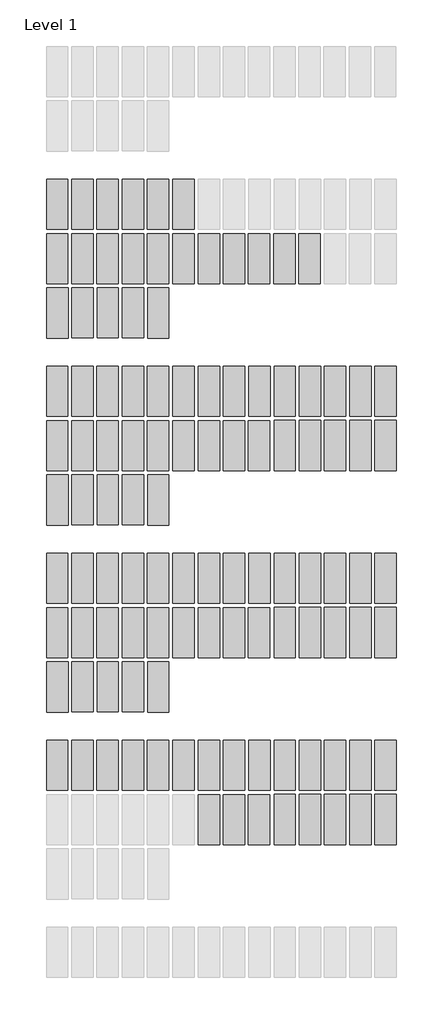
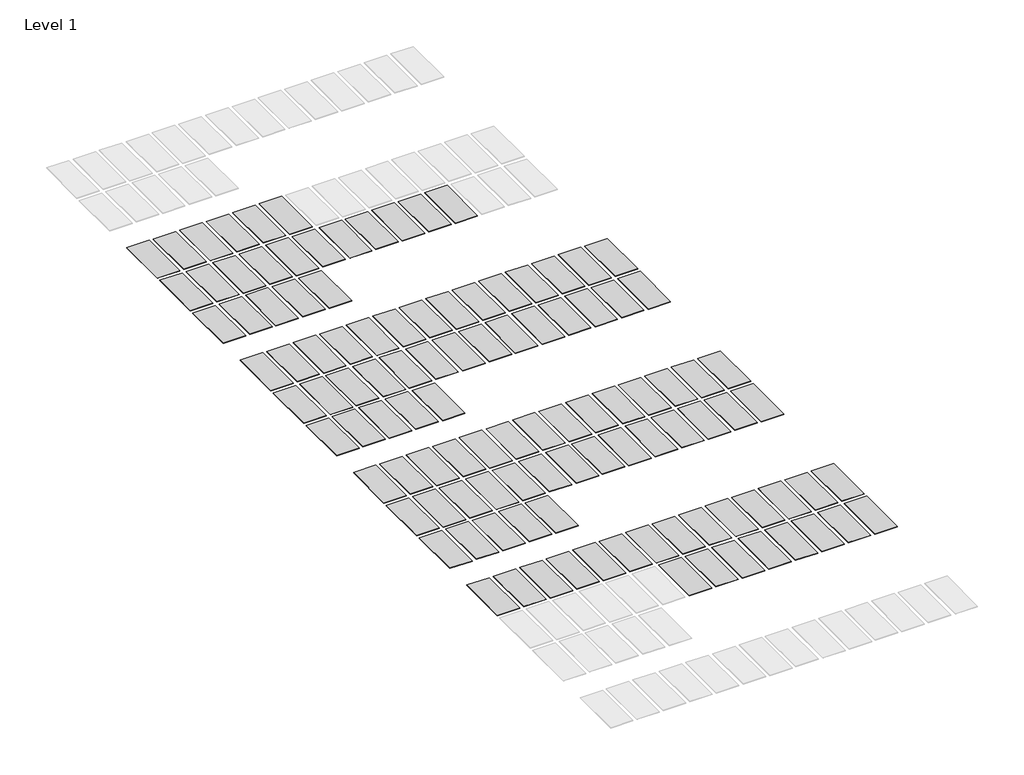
# One storey, part 2 of 3: 110 proxies.
"""IFC4 building model written with IfcOpenShell, lengths in millimetres."""

import ifcopenshell
import ifcopenshell.guid

model = None  # the IFC model being written
_history = None  # IfcOwnerHistory: only IFC2X3 demands one
_inside = {}  # id of a spatial element -> (the spatial element, [elements in it])
_under = {}  # id of a project, library or spatial element -> (it, [spatial elements below it])
_declared = {}  # id of a project -> (the project, [libraries it declares])
_typed = {}  # id of a type object -> (the type object, [elements of that type])
_made_of = {}  # id of a material, layer set ... -> (it, [elements and type objects made of it])


def new_model(schema):
    """Start an empty IFC model of exactly this schema.

    Asked for "IFC4X3", IfcOpenShell would pick the latest addendum, in which some entities
    have other attributes; the version numbers below select the first issue.
    IFC2X3 requires an IfcOwnerHistory on every rooted entity: one is made here for all.
    """
    global model, _history
    if schema == "IFC4X3":
        model = ifcopenshell.file(schema_version=(4, 3, 0, 0))
    else:
        model = ifcopenshell.file(schema=schema)
    _inside.clear()
    _under.clear()
    _declared.clear()
    _typed.clear()
    _made_of.clear()
    _history = None
    if model.schema == "IFC2X3":
        org = make("IfcOrganization", Name="unknown")
        user = make(
            "IfcPersonAndOrganization",
            ThePerson=make("IfcPerson", FamilyName="unknown"),
            TheOrganization=org,
        )
        app = make(
            "IfcApplication",
            ApplicationDeveloper=org,
            Version="unknown",
            ApplicationFullName="unknown",
            ApplicationIdentifier="unknown",
        )
        _history = make(
            "IfcOwnerHistory",
            OwningUser=user,
            OwningApplication=app,
            ChangeAction="ADDED",
            CreationDate=0,
        )
    return model


def make(cls, **values):
    """One entity of the class cls with the attributes given. An attribute that is None is left unset."""
    return model.create_entity(
        cls, **{name: value for name, value in values.items() if value is not None}
    )


def rooted(cls, **values):
    """An entity with a GlobalId (a new one), such as an element, a storey or a relation."""
    return make(cls, GlobalId=ifcopenshell.guid.new(), OwnerHistory=_history, **values)


def si_unit(unit_type, name, prefix=None):
    """IfcSIUnit, for example si_unit("LENGTHUNIT", "METRE", prefix="MILLI")."""
    return make("IfcSIUnit", UnitType=unit_type, Prefix=prefix, Name=name)


def assignment(units):
    """IfcUnitAssignment: the units of a project."""
    return None if units is None else make("IfcUnitAssignment", Units=units)


def point(xyz):
    """IfcCartesianPoint."""
    return None if xyz is None else make("IfcCartesianPoint", Coordinates=xyz)


def direction(xyz):
    """IfcDirection."""
    return None if xyz is None else make("IfcDirection", DirectionRatios=xyz)


def frame(location, z_axis=None, x_axis=None):
    """IfcAxis2Placement3D, a coordinate frame: its origin and axes. An axis left out is left unset."""
    return make(
        "IfcAxis2Placement3D",
        Location=point(location),
        Axis=direction(z_axis),
        RefDirection=direction(x_axis),
    )


def origin():
    """The frame at (0, 0, 0) with its axes left unset."""
    return frame((0.0, 0.0, 0.0))


def origin_with_axes():
    """The frame at (0, 0, 0) with the z axis (0, 0, 1) and the x axis (1, 0, 0) written out."""
    return frame((0.0, 0.0, 0.0), z_axis=(0.0, 0.0, 1.0), x_axis=(1.0, 0.0, 0.0))


def place(relative_to, where):
    """IfcLocalPlacement: puts the frame where relative to a parent placement (None: the world)."""
    return make(
        "IfcLocalPlacement", PlacementRelTo=relative_to, RelativePlacement=where
    )


def context(
    kind, dimensions, precision=None, world=None, true_north=None, identifier=None
):
    """IfcGeometricRepresentationContext, for example the 3D "Model" context."""
    return make(
        "IfcGeometricRepresentationContext",
        ContextIdentifier=identifier,
        ContextType=kind,
        CoordinateSpaceDimension=dimensions,
        Precision=precision,
        WorldCoordinateSystem=world,
        TrueNorth=true_north,
    )


def project(units=None, contexts=None):
    """IfcProject with its units and contexts."""
    return rooted(
        "IfcProject",
        Name="project",
        RepresentationContexts=contexts,
        UnitsInContext=assignment(units),
    )


def spatial(cls, under=None, at=None, **own):
    """A site, building, storey or space (cls), placed at a placement, below another one or the project."""
    s = rooted(cls, ObjectPlacement=at, **own)
    if under is not None:
        _under.setdefault(under.id(), (under, []))[1].append(s)
    return s


def polyline(points):
    """IfcPolyline through the points."""
    return make("IfcPolyline", Points=[point(p) for p in points])


def outline(outer, holes=None, kind="AREA"):
    """IfcArbitraryClosedProfileDef: a profile drawn as a closed curve; with holes, ...WithVoids."""
    if holes is None:
        return make("IfcArbitraryClosedProfileDef", ProfileType=kind, OuterCurve=outer)
    return make(
        "IfcArbitraryProfileDefWithVoids",
        ProfileType=kind,
        OuterCurve=outer,
        InnerCurves=holes,
    )


def extrude(swept, where, along, depth):
    """IfcExtrudedAreaSolid: the profile swept, set in the frame where, extruded along a direction by depth."""
    return make(
        "IfcExtrudedAreaSolid",
        SweptArea=swept,
        Position=where,
        ExtrudedDirection=direction(along),
        Depth=depth,
    )


def shape(context_of_items, identifier, shape_type, items):
    """IfcShapeRepresentation: the items that make up one representation, for example the "Body"."""
    return make(
        "IfcShapeRepresentation",
        ContextOfItems=context_of_items,
        RepresentationIdentifier=identifier,
        RepresentationType=shape_type,
        Items=items,
    )


def source(mapping_origin, context_of_items, identifier, shape_type, items):
    """IfcRepresentationMap: a shape defined once, which mapped items show again and again."""
    return make(
        "IfcRepresentationMap",
        MappingOrigin=mapping_origin,
        MappedRepresentation=shape(context_of_items, identifier, shape_type, items),
    )


def transform(
    local_origin,
    x_axis=None,
    y_axis=None,
    z_axis=None,
    scale=None,
    scale2=None,
    scale3=None,
    uniform=True,
):
    """IfcCartesianTransformationOperator3D, or its non-uniform kind. x_axis, y_axis, z_axis: its Axis1, 2, 3."""
    if uniform:
        return make(
            "IfcCartesianTransformationOperator3D",
            Axis1=direction(x_axis),
            Axis2=direction(y_axis),
            LocalOrigin=point(local_origin),
            Scale=scale,
            Axis3=direction(z_axis),
        )
    return make(
        "IfcCartesianTransformationOperator3DnonUniform",
        Axis1=direction(x_axis),
        Axis2=direction(y_axis),
        LocalOrigin=point(local_origin),
        Scale=scale,
        Axis3=direction(z_axis),
        Scale2=scale2,
        Scale3=scale3,
    )


def mapped(mapping_source, mapping_target):
    """IfcMappedItem: shows the shape of a source again, moved by a transform."""
    return make(
        "IfcMappedItem", MappingSource=mapping_source, MappingTarget=mapping_target
    )


def made_of(thing, what):
    """Note that an element or type object is made of a material, layer set ...; save() writes the relation."""
    if what is not None:
        _made_of.setdefault(what.id(), (what, []))[1].append(thing)
    return thing


def element(
    cls,
    number,
    at=None,
    inside=None,
    cuts=None,
    type_object=None,
    material=None,
    context=None,
    identifier="Body",
    shape_type=None,
    held_by="IfcProductDefinitionShape",
    body=None,
    shapes=None,
    **own,
):
    """One element of the class cls, such as IfcWall. Its Tag is "e" and its number.

    at: its placement. inside: the storey or other place that contains it. cuts: it is an
    opening in that element (IfcRelVoidsElement). A single representation is given by context,
    identifier, shape_type and body (its items); several are given by shapes. held_by: the class
    of the entity that holds the representations. save() writes the other relations.
    """
    e = rooted(cls, Tag="e%d" % number, ObjectPlacement=at, **own)
    if body is not None:
        shapes = [shape(context, identifier, shape_type, body)]
    if shapes is not None:
        e.Representation = make(held_by, Representations=shapes)
    if inside is not None:
        _inside.setdefault(inside.id(), (inside, []))[1].append(e)
    if cuts is not None:
        rooted(
            "IfcRelVoidsElement", RelatingBuildingElement=cuts, RelatedOpeningElement=e
        )
    if type_object is not None:
        _typed.setdefault(type_object.id(), (type_object, []))[1].append(e)
    return made_of(e, material)


def aggregate(whole, parts):
    """IfcRelAggregates: a whole, such as a stair, and the parts it consists of."""
    return rooted("IfcRelAggregates", RelatingObject=whole, RelatedObjects=parts)


def save(model, path):
    """Write the relations noted so far, then the file.

    IfcRelAggregates (storeys below a building ...), IfcRelContainedInSpatialStructure (elements
    in a storey), IfcRelDefinesByType, IfcRelAssociatesMaterial and IfcRelDeclares: one each for
    every whole, place, type object, material and project.
    """
    for whole, parts in _under.values():
        aggregate(whole, parts)
    for where, things in _inside.values():
        rooted(
            "IfcRelContainedInSpatialStructure",
            RelatedElements=things,
            RelatingStructure=where,
        )
    for kind, things in _typed.values():
        rooted("IfcRelDefinesByType", RelatedObjects=things, RelatingType=kind)
    for what, things in _made_of.values():
        rooted("IfcRelAssociatesMaterial", RelatedObjects=things, RelatingMaterial=what)
    for by, libraries in _declared.values():
        rooted("IfcRelDeclares", RelatingContext=by, RelatedDefinitions=libraries)
    model.write(path)


def materialsample_type_1_ed131d8e(model_context):
    return source(origin(), model_context, "Body", "SweptSolid", [
        extrude(outline(polyline([(1176.0974335, 20.0569203), (7.6974335, 20.0569203), (7.6974335, 2763.2569203), (1176.0974335, 2763.2569203), (1176.0974335, 20.0569203)])), origin_with_axes(), (0.0, 0.0, 1.0), 25.4),
    ])


model = new_model("IFC4")

# Units and contexts
model_context = context("Model", 3, world=origin())
ifc_project = project(units=[si_unit("LENGTHUNIT", "METRE", prefix="MILLI")], contexts=[model_context])

# Site, building, storey
site = spatial("IfcSite", under=ifc_project)
building = spatial("IfcBuilding", under=site)
storey = spatial("IfcBuildingStorey", under=building, Name="Level 1", Elevation=0.0)

# Proxies
placement = place(None, origin())
materialsample_type_1_shape = materialsample_type_1_ed131d8e(model_context)
element("IfcBuildingElementProxy", 1, Name="MaterialSample : Type 1", ObjectType="MaterialSample : Type 1", at=placement, inside=storey, context=model_context, shape_type="MappedRepresentation", body=[
    mapped(materialsample_type_1_shape, transform((0.0, -42976.8, 0.0), x_axis=(1.0, 0.0, 0.0), y_axis=(0.0, 1.0, 0.0), z_axis=(0.0, 0.0, 1.0))),
])
element("IfcBuildingElementProxy", 2, Name="MaterialSample : Type 1", ObjectType="MaterialSample : Type 1", at=placement, inside=storey, context=model_context, shape_type="MappedRepresentation", body=[
    mapped(materialsample_type_1_shape, transform((1371.6, -42976.8, 0.0), x_axis=(1.0, 0.0, 0.0), y_axis=(0.0, 1.0, 0.0), z_axis=(0.0, 0.0, 1.0))),
])
element("IfcBuildingElementProxy", 3, Name="MaterialSample : Type 1", ObjectType="MaterialSample : Type 1", at=placement, inside=storey, context=model_context, shape_type="MappedRepresentation", body=[
    mapped(materialsample_type_1_shape, transform((2750.8974335, -42976.8, 0.0), x_axis=(1.0, 0.0, 0.0), y_axis=(0.0, 1.0, 0.0), z_axis=(0.0, 0.0, 1.0))),
])
element("IfcBuildingElementProxy", 4, Name="MaterialSample : Type 1", ObjectType="MaterialSample : Type 1", at=placement, inside=storey, context=model_context, shape_type="MappedRepresentation", body=[
    mapped(materialsample_type_1_shape, transform((4130.1948669, -42976.8, 0.0), x_axis=(1.0, 0.0, 0.0), y_axis=(0.0, 1.0, 0.0), z_axis=(0.0, 0.0, 1.0))),
])
element("IfcBuildingElementProxy", 5, Name="MaterialSample : Type 1", ObjectType="MaterialSample : Type 1", at=placement, inside=storey, context=model_context, shape_type="MappedRepresentation", body=[
    mapped(materialsample_type_1_shape, transform((5509.4923004, -42976.8, 0.0), x_axis=(1.0, 0.0, 0.0), y_axis=(0.0, 1.0, 0.0), z_axis=(0.0, 0.0, 1.0))),
])
element("IfcBuildingElementProxy", 6, Name="MaterialSample : Type 1", ObjectType="MaterialSample : Type 1", at=placement, inside=storey, context=model_context, shape_type="MappedRepresentation", body=[
    mapped(materialsample_type_1_shape, transform((6896.4871673, -42976.8, 0.0), x_axis=(1.0, 0.0, 0.0), y_axis=(0.0, 1.0, 0.0), z_axis=(0.0, 0.0, 1.0))),
])
element("IfcBuildingElementProxy", 7, Name="MaterialSample : Type 1", ObjectType="MaterialSample : Type 1", at=placement, inside=storey, context=model_context, shape_type="MappedRepresentation", body=[
    mapped(materialsample_type_1_shape, transform((0.0, -45943.2569203, 0.0), x_axis=(1.0, 0.0, 0.0), y_axis=(0.0, 1.0, 0.0), z_axis=(0.0, 0.0, 1.0))),
])
element("IfcBuildingElementProxy", 8, Name="MaterialSample : Type 1", ObjectType="MaterialSample : Type 1", at=placement, inside=storey, context=model_context, shape_type="MappedRepresentation", body=[
    mapped(materialsample_type_1_shape, transform((1379.2974335, -45943.2569203, 0.0), x_axis=(1.0, 0.0, 0.0), y_axis=(0.0, 1.0, 0.0), z_axis=(0.0, 0.0, 1.0))),
])
element("IfcBuildingElementProxy", 9, Name="MaterialSample : Type 1", ObjectType="MaterialSample : Type 1", at=placement, inside=storey, context=model_context, shape_type="MappedRepresentation", body=[
    mapped(materialsample_type_1_shape, transform((2750.8974335, -45943.2569203, 0.0), x_axis=(1.0, 0.0, 0.0), y_axis=(0.0, 1.0, 0.0), z_axis=(0.0, 0.0, 1.0))),
])
element("IfcBuildingElementProxy", 10, Name="MaterialSample : Type 1", ObjectType="MaterialSample : Type 1", at=placement, inside=storey, context=model_context, shape_type="MappedRepresentation", body=[
    mapped(materialsample_type_1_shape, transform((4137.8923004, -45943.2569203, 0.0), x_axis=(1.0, 0.0, 0.0), y_axis=(0.0, 1.0, 0.0), z_axis=(0.0, 0.0, 1.0))),
])
element("IfcBuildingElementProxy", 11, Name="MaterialSample : Type 1", ObjectType="MaterialSample : Type 1", at=placement, inside=storey, context=model_context, shape_type="MappedRepresentation", body=[
    mapped(materialsample_type_1_shape, transform((5509.4923004, -45943.2569203, 0.0), x_axis=(1.0, 0.0, 0.0), y_axis=(0.0, 1.0, 0.0), z_axis=(0.0, 0.0, 1.0))),
])
element("IfcBuildingElementProxy", 12, Name="MaterialSample : Type 1", ObjectType="MaterialSample : Type 1", at=placement, inside=storey, context=model_context, shape_type="MappedRepresentation", body=[
    mapped(materialsample_type_1_shape, transform((6888.7897338, -45943.2569203, 0.0), x_axis=(1.0, 0.0, 0.0), y_axis=(0.0, 1.0, 0.0), z_axis=(0.0, 0.0, 1.0))),
])
element("IfcBuildingElementProxy", 13, Name="MaterialSample : Type 1", ObjectType="MaterialSample : Type 1", at=placement, inside=storey, context=model_context, shape_type="MappedRepresentation", body=[
    mapped(materialsample_type_1_shape, transform((8285.7897338, -45943.2569203, 0.0), x_axis=(1.0, 0.0, 0.0), y_axis=(0.0, 1.0, 0.0), z_axis=(0.0, 0.0, 1.0))),
])
element("IfcBuildingElementProxy", 14, Name="MaterialSample : Type 1", ObjectType="MaterialSample : Type 1", at=placement, inside=storey, context=model_context, shape_type="MappedRepresentation", body=[
    mapped(materialsample_type_1_shape, transform((9655.0820342, -45943.2569203, 0.0), x_axis=(1.0, 0.0, 0.0), y_axis=(0.0, 1.0, 0.0), z_axis=(0.0, 0.0, 1.0))),
])
element("IfcBuildingElementProxy", 15, Name="MaterialSample : Type 1", ObjectType="MaterialSample : Type 1", at=placement, inside=storey, context=model_context, shape_type="MappedRepresentation", body=[
    mapped(materialsample_type_1_shape, transform((11026.6820342, -45943.2569203, 0.0), x_axis=(1.0, 0.0, 0.0), y_axis=(0.0, 1.0, 0.0), z_axis=(0.0, 0.0, 1.0))),
])
element("IfcBuildingElementProxy", 16, Name="MaterialSample : Type 1", ObjectType="MaterialSample : Type 1", at=placement, inside=storey, context=model_context, shape_type="MappedRepresentation", body=[
    mapped(materialsample_type_1_shape, transform((5517.1897338, -48909.7138407, 0.0), x_axis=(1.0, 0.0, 0.0), y_axis=(0.0, 1.0, 0.0), z_axis=(0.0, 0.0, 1.0))),
])
element("IfcBuildingElementProxy", 17, Name="MaterialSample : Type 1", ObjectType="MaterialSample : Type 1", at=placement, inside=storey, context=model_context, shape_type="MappedRepresentation", body=[
    mapped(materialsample_type_1_shape, transform((4145.5897338, -48889.6569203, 0.0), x_axis=(1.0, 0.0, 0.0), y_axis=(0.0, 1.0, 0.0), z_axis=(0.0, 0.0, 1.0))),
])
element("IfcBuildingElementProxy", 18, Name="MaterialSample : Type 1", ObjectType="MaterialSample : Type 1", at=placement, inside=storey, context=model_context, shape_type="MappedRepresentation", body=[
    mapped(materialsample_type_1_shape, transform((2758.5948669, -48889.6569203, 0.0), x_axis=(1.0, 0.0, 0.0), y_axis=(0.0, 1.0, 0.0), z_axis=(0.0, 0.0, 1.0))),
])
element("IfcBuildingElementProxy", 19, Name="MaterialSample : Type 1", ObjectType="MaterialSample : Type 1", at=placement, inside=storey, context=model_context, shape_type="MappedRepresentation", body=[
    mapped(materialsample_type_1_shape, transform((1386.9948669, -48889.6569203, 0.0), x_axis=(1.0, 0.0, 0.0), y_axis=(0.0, 1.0, 0.0), z_axis=(0.0, 0.0, 1.0))),
])
element("IfcBuildingElementProxy", 20, Name="MaterialSample : Type 1", ObjectType="MaterialSample : Type 1", at=placement, inside=storey, context=model_context, shape_type="MappedRepresentation", body=[
    mapped(materialsample_type_1_shape, transform((7.6974335, -48909.7138407, 0.0), x_axis=(1.0, 0.0, 0.0), y_axis=(0.0, 1.0, 0.0), z_axis=(0.0, 0.0, 1.0))),
])
element("IfcBuildingElementProxy", 21, Name="MaterialSample : Type 1", ObjectType="MaterialSample : Type 1", at=placement, inside=storey, context=model_context, shape_type="MappedRepresentation", body=[
    mapped(materialsample_type_1_shape, transform((13777.5794677, -45943.2569203, 0.0), x_axis=(1.0, 0.0, 0.0), y_axis=(0.0, 1.0, 0.0), z_axis=(0.0, 0.0, 1.0))),
])
element("IfcBuildingElementProxy", 22, Name="MaterialSample : Type 1", ObjectType="MaterialSample : Type 1", at=placement, inside=storey, context=model_context, shape_type="MappedRepresentation", body=[
    mapped(materialsample_type_1_shape, transform((12405.9794677, -45943.2569203, 0.0), x_axis=(1.0, 0.0, 0.0), y_axis=(0.0, 1.0, 0.0), z_axis=(0.0, 0.0, 1.0))),
])
element("IfcBuildingElementProxy", 23, Name="MaterialSample : Type 1", ObjectType="MaterialSample : Type 1", at=placement, inside=storey, context=model_context, shape_type="MappedRepresentation", body=[
    mapped(materialsample_type_1_shape, transform((0.0, -53187.6, 0.0), x_axis=(1.0, 0.0, 0.0), y_axis=(0.0, 1.0, 0.0), z_axis=(0.0, 0.0, 1.0))),
])
element("IfcBuildingElementProxy", 24, Name="MaterialSample : Type 1", ObjectType="MaterialSample : Type 1", at=placement, inside=storey, context=model_context, shape_type="MappedRepresentation", body=[
    mapped(materialsample_type_1_shape, transform((1371.6, -53187.6, 0.0), x_axis=(1.0, 0.0, 0.0), y_axis=(0.0, 1.0, 0.0), z_axis=(0.0, 0.0, 1.0))),
])
element("IfcBuildingElementProxy", 25, Name="MaterialSample : Type 1", ObjectType="MaterialSample : Type 1", at=placement, inside=storey, context=model_context, shape_type="MappedRepresentation", body=[
    mapped(materialsample_type_1_shape, transform((2750.8974335, -53187.6, 0.0), x_axis=(1.0, 0.0, 0.0), y_axis=(0.0, 1.0, 0.0), z_axis=(0.0, 0.0, 1.0))),
])
element("IfcBuildingElementProxy", 26, Name="MaterialSample : Type 1", ObjectType="MaterialSample : Type 1", at=placement, inside=storey, context=model_context, shape_type="MappedRepresentation", body=[
    mapped(materialsample_type_1_shape, transform((4130.1948669, -53187.6, 0.0), x_axis=(1.0, 0.0, 0.0), y_axis=(0.0, 1.0, 0.0), z_axis=(0.0, 0.0, 1.0))),
])
element("IfcBuildingElementProxy", 27, Name="MaterialSample : Type 1", ObjectType="MaterialSample : Type 1", at=placement, inside=storey, context=model_context, shape_type="MappedRepresentation", body=[
    mapped(materialsample_type_1_shape, transform((5509.4923004, -53187.6, 0.0), x_axis=(1.0, 0.0, 0.0), y_axis=(0.0, 1.0, 0.0), z_axis=(0.0, 0.0, 1.0))),
])
element("IfcBuildingElementProxy", 28, Name="MaterialSample : Type 1", ObjectType="MaterialSample : Type 1", at=placement, inside=storey, context=model_context, shape_type="MappedRepresentation", body=[
    mapped(materialsample_type_1_shape, transform((6896.4871673, -53187.6, 0.0), x_axis=(1.0, 0.0, 0.0), y_axis=(0.0, 1.0, 0.0), z_axis=(0.0, 0.0, 1.0))),
])
element("IfcBuildingElementProxy", 29, Name="MaterialSample : Type 1", ObjectType="MaterialSample : Type 1", at=placement, inside=storey, context=model_context, shape_type="MappedRepresentation", body=[
    mapped(materialsample_type_1_shape, transform((8275.7846008, -53187.6, 0.0), x_axis=(1.0, 0.0, 0.0), y_axis=(0.0, 1.0, 0.0), z_axis=(0.0, 0.0, 1.0))),
])
element("IfcBuildingElementProxy", 30, Name="MaterialSample : Type 1", ObjectType="MaterialSample : Type 1", at=placement, inside=storey, context=model_context, shape_type="MappedRepresentation", body=[
    mapped(materialsample_type_1_shape, transform((9647.3846008, -53187.6, 0.0), x_axis=(1.0, 0.0, 0.0), y_axis=(0.0, 1.0, 0.0), z_axis=(0.0, 0.0, 1.0))),
])
element("IfcBuildingElementProxy", 31, Name="MaterialSample : Type 1", ObjectType="MaterialSample : Type 1", at=placement, inside=storey, context=model_context, shape_type="MappedRepresentation", body=[
    mapped(materialsample_type_1_shape, transform((11034.3794677, -53187.6, 0.0), x_axis=(1.0, 0.0, 0.0), y_axis=(0.0, 1.0, 0.0), z_axis=(0.0, 0.0, 1.0))),
])
element("IfcBuildingElementProxy", 32, Name="MaterialSample : Type 1", ObjectType="MaterialSample : Type 1", at=placement, inside=storey, context=model_context, shape_type="MappedRepresentation", body=[
    mapped(materialsample_type_1_shape, transform((12421.3743346, -53177.5715398, 0.0), x_axis=(1.0, 0.0, 0.0), y_axis=(0.0, 1.0, 0.0), z_axis=(0.0, 0.0, 1.0))),
])
element("IfcBuildingElementProxy", 33, Name="MaterialSample : Type 1", ObjectType="MaterialSample : Type 1", at=placement, inside=storey, context=model_context, shape_type="MappedRepresentation", body=[
    mapped(materialsample_type_1_shape, transform((13792.9743346, -53177.5715398, 0.0), x_axis=(1.0, 0.0, 0.0), y_axis=(0.0, 1.0, 0.0), z_axis=(0.0, 0.0, 1.0))),
])
element("IfcBuildingElementProxy", 34, Name="MaterialSample : Type 1", ObjectType="MaterialSample : Type 1", at=placement, inside=storey, context=model_context, shape_type="MappedRepresentation", body=[
    mapped(materialsample_type_1_shape, transform((15172.271768, -53177.5715398, 0.0), x_axis=(1.0, 0.0, 0.0), y_axis=(0.0, 1.0, 0.0), z_axis=(0.0, 0.0, 1.0))),
])
element("IfcBuildingElementProxy", 35, Name="MaterialSample : Type 1", ObjectType="MaterialSample : Type 1", at=placement, inside=storey, context=model_context, shape_type="MappedRepresentation", body=[
    mapped(materialsample_type_1_shape, transform((16551.5692015, -53177.5715398, 0.0), x_axis=(1.0, 0.0, 0.0), y_axis=(0.0, 1.0, 0.0), z_axis=(0.0, 0.0, 1.0))),
])
element("IfcBuildingElementProxy", 36, Name="MaterialSample : Type 1", ObjectType="MaterialSample : Type 1", at=placement, inside=storey, context=model_context, shape_type="MappedRepresentation", body=[
    mapped(materialsample_type_1_shape, transform((17930.866635, -53177.5715398, 0.0), x_axis=(1.0, 0.0, 0.0), y_axis=(0.0, 1.0, 0.0), z_axis=(0.0, 0.0, 1.0))),
])
element("IfcBuildingElementProxy", 37, Name="MaterialSample : Type 1", ObjectType="MaterialSample : Type 1", at=placement, inside=storey, context=model_context, shape_type="MappedRepresentation", body=[
    mapped(materialsample_type_1_shape, transform((0.0, -56154.0569203, 0.0), x_axis=(1.0, 0.0, 0.0), y_axis=(0.0, 1.0, 0.0), z_axis=(0.0, 0.0, 1.0))),
])
element("IfcBuildingElementProxy", 38, Name="MaterialSample : Type 1", ObjectType="MaterialSample : Type 1", at=placement, inside=storey, context=model_context, shape_type="MappedRepresentation", body=[
    mapped(materialsample_type_1_shape, transform((1379.2974335, -56154.0569203, 0.0), x_axis=(1.0, 0.0, 0.0), y_axis=(0.0, 1.0, 0.0), z_axis=(0.0, 0.0, 1.0))),
])
element("IfcBuildingElementProxy", 39, Name="MaterialSample : Type 1", ObjectType="MaterialSample : Type 1", at=placement, inside=storey, context=model_context, shape_type="MappedRepresentation", body=[
    mapped(materialsample_type_1_shape, transform((2750.8974335, -56154.0569203, 0.0), x_axis=(1.0, 0.0, 0.0), y_axis=(0.0, 1.0, 0.0), z_axis=(0.0, 0.0, 1.0))),
])
element("IfcBuildingElementProxy", 40, Name="MaterialSample : Type 1", ObjectType="MaterialSample : Type 1", at=placement, inside=storey, context=model_context, shape_type="MappedRepresentation", body=[
    mapped(materialsample_type_1_shape, transform((4137.8923004, -56154.0569203, 0.0), x_axis=(1.0, 0.0, 0.0), y_axis=(0.0, 1.0, 0.0), z_axis=(0.0, 0.0, 1.0))),
])
element("IfcBuildingElementProxy", 41, Name="MaterialSample : Type 1", ObjectType="MaterialSample : Type 1", at=placement, inside=storey, context=model_context, shape_type="MappedRepresentation", body=[
    mapped(materialsample_type_1_shape, transform((5509.4923004, -56154.0569203, 0.0), x_axis=(1.0, 0.0, 0.0), y_axis=(0.0, 1.0, 0.0), z_axis=(0.0, 0.0, 1.0))),
])
element("IfcBuildingElementProxy", 42, Name="MaterialSample : Type 1", ObjectType="MaterialSample : Type 1", at=placement, inside=storey, context=model_context, shape_type="MappedRepresentation", body=[
    mapped(materialsample_type_1_shape, transform((6888.7897338, -56154.0569203, 0.0), x_axis=(1.0, 0.0, 0.0), y_axis=(0.0, 1.0, 0.0), z_axis=(0.0, 0.0, 1.0))),
])
element("IfcBuildingElementProxy", 43, Name="MaterialSample : Type 1", ObjectType="MaterialSample : Type 1", at=placement, inside=storey, context=model_context, shape_type="MappedRepresentation", body=[
    mapped(materialsample_type_1_shape, transform((8285.7897338, -56154.0569203, 0.0), x_axis=(1.0, 0.0, 0.0), y_axis=(0.0, 1.0, 0.0), z_axis=(0.0, 0.0, 1.0))),
])
element("IfcBuildingElementProxy", 44, Name="MaterialSample : Type 1", ObjectType="MaterialSample : Type 1", at=placement, inside=storey, context=model_context, shape_type="MappedRepresentation", body=[
    mapped(materialsample_type_1_shape, transform((9655.0820342, -56154.0569203, 0.0), x_axis=(1.0, 0.0, 0.0), y_axis=(0.0, 1.0, 0.0), z_axis=(0.0, 0.0, 1.0))),
])
element("IfcBuildingElementProxy", 45, Name="MaterialSample : Type 1", ObjectType="MaterialSample : Type 1", at=placement, inside=storey, context=model_context, shape_type="MappedRepresentation", body=[
    mapped(materialsample_type_1_shape, transform((11026.6820342, -56154.0569203, 0.0), x_axis=(1.0, 0.0, 0.0), y_axis=(0.0, 1.0, 0.0), z_axis=(0.0, 0.0, 1.0))),
])
element("IfcBuildingElementProxy", 46, Name="MaterialSample : Type 1", ObjectType="MaterialSample : Type 1", at=placement, inside=storey, context=model_context, shape_type="MappedRepresentation", body=[
    mapped(materialsample_type_1_shape, transform((5517.1897338, -59120.5138407, 0.0), x_axis=(1.0, 0.0, 0.0), y_axis=(0.0, 1.0, 0.0), z_axis=(0.0, 0.0, 1.0))),
])
element("IfcBuildingElementProxy", 47, Name="MaterialSample : Type 1", ObjectType="MaterialSample : Type 1", at=placement, inside=storey, context=model_context, shape_type="MappedRepresentation", body=[
    mapped(materialsample_type_1_shape, transform((4145.5897338, -59100.4569203, 0.0), x_axis=(1.0, 0.0, 0.0), y_axis=(0.0, 1.0, 0.0), z_axis=(0.0, 0.0, 1.0))),
])
element("IfcBuildingElementProxy", 48, Name="MaterialSample : Type 1", ObjectType="MaterialSample : Type 1", at=placement, inside=storey, context=model_context, shape_type="MappedRepresentation", body=[
    mapped(materialsample_type_1_shape, transform((2758.5948669, -59100.4569203, 0.0), x_axis=(1.0, 0.0, 0.0), y_axis=(0.0, 1.0, 0.0), z_axis=(0.0, 0.0, 1.0))),
])
element("IfcBuildingElementProxy", 49, Name="MaterialSample : Type 1", ObjectType="MaterialSample : Type 1", at=placement, inside=storey, context=model_context, shape_type="MappedRepresentation", body=[
    mapped(materialsample_type_1_shape, transform((1386.9948669, -59100.4569203, 0.0), x_axis=(1.0, 0.0, 0.0), y_axis=(0.0, 1.0, 0.0), z_axis=(0.0, 0.0, 1.0))),
])
element("IfcBuildingElementProxy", 50, Name="MaterialSample : Type 1", ObjectType="MaterialSample : Type 1", at=placement, inside=storey, context=model_context, shape_type="MappedRepresentation", body=[
    mapped(materialsample_type_1_shape, transform((7.6974335, -59120.5138407, 0.0), x_axis=(1.0, 0.0, 0.0), y_axis=(0.0, 1.0, 0.0), z_axis=(0.0, 0.0, 1.0))),
])
element("IfcBuildingElementProxy", 51, Name="MaterialSample : Type 1", ObjectType="MaterialSample : Type 1", at=placement, inside=storey, context=model_context, shape_type="MappedRepresentation", body=[
    mapped(materialsample_type_1_shape, transform((17930.866635, -56144.0284602, 0.0), x_axis=(1.0, 0.0, 0.0), y_axis=(0.0, 1.0, 0.0), z_axis=(0.0, 0.0, 1.0))),
])
element("IfcBuildingElementProxy", 52, Name="MaterialSample : Type 1", ObjectType="MaterialSample : Type 1", at=placement, inside=storey, context=model_context, shape_type="MappedRepresentation", body=[
    mapped(materialsample_type_1_shape, transform((16551.5692015, -56144.0284602, 0.0), x_axis=(1.0, 0.0, 0.0), y_axis=(0.0, 1.0, 0.0), z_axis=(0.0, 0.0, 1.0))),
])
element("IfcBuildingElementProxy", 53, Name="MaterialSample : Type 1", ObjectType="MaterialSample : Type 1", at=placement, inside=storey, context=model_context, shape_type="MappedRepresentation", body=[
    mapped(materialsample_type_1_shape, transform((15172.271768, -56144.0284602, 0.0), x_axis=(1.0, 0.0, 0.0), y_axis=(0.0, 1.0, 0.0), z_axis=(0.0, 0.0, 1.0))),
])
element("IfcBuildingElementProxy", 54, Name="MaterialSample : Type 1", ObjectType="MaterialSample : Type 1", at=placement, inside=storey, context=model_context, shape_type="MappedRepresentation", body=[
    mapped(materialsample_type_1_shape, transform((13792.9743346, -56144.0284602, 0.0), x_axis=(1.0, 0.0, 0.0), y_axis=(0.0, 1.0, 0.0), z_axis=(0.0, 0.0, 1.0))),
])
element("IfcBuildingElementProxy", 55, Name="MaterialSample : Type 1", ObjectType="MaterialSample : Type 1", at=placement, inside=storey, context=model_context, shape_type="MappedRepresentation", body=[
    mapped(materialsample_type_1_shape, transform((12421.3743346, -56144.0284602, 0.0), x_axis=(1.0, 0.0, 0.0), y_axis=(0.0, 1.0, 0.0), z_axis=(0.0, 0.0, 1.0))),
])
element("IfcBuildingElementProxy", 56, Name="MaterialSample : Type 1", ObjectType="MaterialSample : Type 1", at=placement, inside=storey, context=model_context, shape_type="MappedRepresentation", body=[
    mapped(materialsample_type_1_shape, transform((0.0, -63398.4, 0.0), x_axis=(1.0, 0.0, 0.0), y_axis=(0.0, 1.0, 0.0), z_axis=(0.0, 0.0, 1.0))),
])
element("IfcBuildingElementProxy", 57, Name="MaterialSample : Type 1", ObjectType="MaterialSample : Type 1", at=placement, inside=storey, context=model_context, shape_type="MappedRepresentation", body=[
    mapped(materialsample_type_1_shape, transform((1371.6, -63398.4, 0.0), x_axis=(1.0, 0.0, 0.0), y_axis=(0.0, 1.0, 0.0), z_axis=(0.0, 0.0, 1.0))),
])
element("IfcBuildingElementProxy", 58, Name="MaterialSample : Type 1", ObjectType="MaterialSample : Type 1", at=placement, inside=storey, context=model_context, shape_type="MappedRepresentation", body=[
    mapped(materialsample_type_1_shape, transform((2750.8974335, -63398.4, 0.0), x_axis=(1.0, 0.0, 0.0), y_axis=(0.0, 1.0, 0.0), z_axis=(0.0, 0.0, 1.0))),
])
element("IfcBuildingElementProxy", 59, Name="MaterialSample : Type 1", ObjectType="MaterialSample : Type 1", at=placement, inside=storey, context=model_context, shape_type="MappedRepresentation", body=[
    mapped(materialsample_type_1_shape, transform((4130.1948669, -63398.4, 0.0), x_axis=(1.0, 0.0, 0.0), y_axis=(0.0, 1.0, 0.0), z_axis=(0.0, 0.0, 1.0))),
])
element("IfcBuildingElementProxy", 60, Name="MaterialSample : Type 1", ObjectType="MaterialSample : Type 1", at=placement, inside=storey, context=model_context, shape_type="MappedRepresentation", body=[
    mapped(materialsample_type_1_shape, transform((5509.4923004, -63398.4, 0.0), x_axis=(1.0, 0.0, 0.0), y_axis=(0.0, 1.0, 0.0), z_axis=(0.0, 0.0, 1.0))),
])
element("IfcBuildingElementProxy", 61, Name="MaterialSample : Type 1", ObjectType="MaterialSample : Type 1", at=placement, inside=storey, context=model_context, shape_type="MappedRepresentation", body=[
    mapped(materialsample_type_1_shape, transform((6896.4871673, -63398.4, 0.0), x_axis=(1.0, 0.0, 0.0), y_axis=(0.0, 1.0, 0.0), z_axis=(0.0, 0.0, 1.0))),
])
element("IfcBuildingElementProxy", 62, Name="MaterialSample : Type 1", ObjectType="MaterialSample : Type 1", at=placement, inside=storey, context=model_context, shape_type="MappedRepresentation", body=[
    mapped(materialsample_type_1_shape, transform((8275.7846008, -63398.4, 0.0), x_axis=(1.0, 0.0, 0.0), y_axis=(0.0, 1.0, 0.0), z_axis=(0.0, 0.0, 1.0))),
])
element("IfcBuildingElementProxy", 63, Name="MaterialSample : Type 1", ObjectType="MaterialSample : Type 1", at=placement, inside=storey, context=model_context, shape_type="MappedRepresentation", body=[
    mapped(materialsample_type_1_shape, transform((9647.3846008, -63398.4, 0.0), x_axis=(1.0, 0.0, 0.0), y_axis=(0.0, 1.0, 0.0), z_axis=(0.0, 0.0, 1.0))),
])
element("IfcBuildingElementProxy", 64, Name="MaterialSample : Type 1", ObjectType="MaterialSample : Type 1", at=placement, inside=storey, context=model_context, shape_type="MappedRepresentation", body=[
    mapped(materialsample_type_1_shape, transform((11034.3794677, -63398.4, 0.0), x_axis=(1.0, 0.0, 0.0), y_axis=(0.0, 1.0, 0.0), z_axis=(0.0, 0.0, 1.0))),
])
element("IfcBuildingElementProxy", 65, Name="MaterialSample : Type 1", ObjectType="MaterialSample : Type 1", at=placement, inside=storey, context=model_context, shape_type="MappedRepresentation", body=[
    mapped(materialsample_type_1_shape, transform((12421.3743346, -63388.3715398, 0.0), x_axis=(1.0, 0.0, 0.0), y_axis=(0.0, 1.0, 0.0), z_axis=(0.0, 0.0, 1.0))),
])
element("IfcBuildingElementProxy", 66, Name="MaterialSample : Type 1", ObjectType="MaterialSample : Type 1", at=placement, inside=storey, context=model_context, shape_type="MappedRepresentation", body=[
    mapped(materialsample_type_1_shape, transform((13792.9743346, -63388.3715398, 0.0), x_axis=(1.0, 0.0, 0.0), y_axis=(0.0, 1.0, 0.0), z_axis=(0.0, 0.0, 1.0))),
])
element("IfcBuildingElementProxy", 67, Name="MaterialSample : Type 1", ObjectType="MaterialSample : Type 1", at=placement, inside=storey, context=model_context, shape_type="MappedRepresentation", body=[
    mapped(materialsample_type_1_shape, transform((15172.271768, -63388.3715398, 0.0), x_axis=(1.0, 0.0, 0.0), y_axis=(0.0, 1.0, 0.0), z_axis=(0.0, 0.0, 1.0))),
])
element("IfcBuildingElementProxy", 68, Name="MaterialSample : Type 1", ObjectType="MaterialSample : Type 1", at=placement, inside=storey, context=model_context, shape_type="MappedRepresentation", body=[
    mapped(materialsample_type_1_shape, transform((16551.5692015, -63388.3715398, 0.0), x_axis=(1.0, 0.0, 0.0), y_axis=(0.0, 1.0, 0.0), z_axis=(0.0, 0.0, 1.0))),
])
element("IfcBuildingElementProxy", 69, Name="MaterialSample : Type 1", ObjectType="MaterialSample : Type 1", at=placement, inside=storey, context=model_context, shape_type="MappedRepresentation", body=[
    mapped(materialsample_type_1_shape, transform((17930.866635, -63388.3715398, 0.0), x_axis=(1.0, 0.0, 0.0), y_axis=(0.0, 1.0, 0.0), z_axis=(0.0, 0.0, 1.0))),
])
element("IfcBuildingElementProxy", 70, Name="MaterialSample : Type 1", ObjectType="MaterialSample : Type 1", at=placement, inside=storey, context=model_context, shape_type="MappedRepresentation", body=[
    mapped(materialsample_type_1_shape, transform((17930.866635, -66354.8284602, 0.0), x_axis=(1.0, 0.0, 0.0), y_axis=(0.0, 1.0, 0.0), z_axis=(0.0, 0.0, 1.0))),
])
element("IfcBuildingElementProxy", 71, Name="MaterialSample : Type 1", ObjectType="MaterialSample : Type 1", at=placement, inside=storey, context=model_context, shape_type="MappedRepresentation", body=[
    mapped(materialsample_type_1_shape, transform((16551.5692015, -66354.8284602, 0.0), x_axis=(1.0, 0.0, 0.0), y_axis=(0.0, 1.0, 0.0), z_axis=(0.0, 0.0, 1.0))),
])
element("IfcBuildingElementProxy", 72, Name="MaterialSample : Type 1", ObjectType="MaterialSample : Type 1", at=placement, inside=storey, context=model_context, shape_type="MappedRepresentation", body=[
    mapped(materialsample_type_1_shape, transform((15172.271768, -66354.8284602, 0.0), x_axis=(1.0, 0.0, 0.0), y_axis=(0.0, 1.0, 0.0), z_axis=(0.0, 0.0, 1.0))),
])
element("IfcBuildingElementProxy", 73, Name="MaterialSample : Type 1", ObjectType="MaterialSample : Type 1", at=placement, inside=storey, context=model_context, shape_type="MappedRepresentation", body=[
    mapped(materialsample_type_1_shape, transform((13792.9743346, -66354.8284602, 0.0), x_axis=(1.0, 0.0, 0.0), y_axis=(0.0, 1.0, 0.0), z_axis=(0.0, 0.0, 1.0))),
])
element("IfcBuildingElementProxy", 74, Name="MaterialSample : Type 1", ObjectType="MaterialSample : Type 1", at=placement, inside=storey, context=model_context, shape_type="MappedRepresentation", body=[
    mapped(materialsample_type_1_shape, transform((12421.3743346, -66354.8284602, 0.0), x_axis=(1.0, 0.0, 0.0), y_axis=(0.0, 1.0, 0.0), z_axis=(0.0, 0.0, 1.0))),
])
element("IfcBuildingElementProxy", 75, Name="MaterialSample : Type 1", ObjectType="MaterialSample : Type 1", at=placement, inside=storey, context=model_context, shape_type="MappedRepresentation", body=[
    mapped(materialsample_type_1_shape, transform((11026.6820342, -66364.8569203, 0.0), x_axis=(1.0, 0.0, 0.0), y_axis=(0.0, 1.0, 0.0), z_axis=(0.0, 0.0, 1.0))),
])
element("IfcBuildingElementProxy", 76, Name="MaterialSample : Type 1", ObjectType="MaterialSample : Type 1", at=placement, inside=storey, context=model_context, shape_type="MappedRepresentation", body=[
    mapped(materialsample_type_1_shape, transform((9655.0820342, -66364.8569203, 0.0), x_axis=(1.0, 0.0, 0.0), y_axis=(0.0, 1.0, 0.0), z_axis=(0.0, 0.0, 1.0))),
])
element("IfcBuildingElementProxy", 77, Name="MaterialSample : Type 1", ObjectType="MaterialSample : Type 1", at=placement, inside=storey, context=model_context, shape_type="MappedRepresentation", body=[
    mapped(materialsample_type_1_shape, transform((8285.7897338, -66364.8569203, 0.0), x_axis=(1.0, 0.0, 0.0), y_axis=(0.0, 1.0, 0.0), z_axis=(0.0, 0.0, 1.0))),
])
element("IfcBuildingElementProxy", 78, Name="MaterialSample : Type 1", ObjectType="MaterialSample : Type 1", at=placement, inside=storey, context=model_context, shape_type="MappedRepresentation", body=[
    mapped(materialsample_type_1_shape, transform((6888.7897338, -66364.8569203, 0.0), x_axis=(1.0, 0.0, 0.0), y_axis=(0.0, 1.0, 0.0), z_axis=(0.0, 0.0, 1.0))),
])
element("IfcBuildingElementProxy", 79, Name="MaterialSample : Type 1", ObjectType="MaterialSample : Type 1", at=placement, inside=storey, context=model_context, shape_type="MappedRepresentation", body=[
    mapped(materialsample_type_1_shape, transform((5509.4923004, -66364.8569203, 0.0), x_axis=(1.0, 0.0, 0.0), y_axis=(0.0, 1.0, 0.0), z_axis=(0.0, 0.0, 1.0))),
])
element("IfcBuildingElementProxy", 80, Name="MaterialSample : Type 1", ObjectType="MaterialSample : Type 1", at=placement, inside=storey, context=model_context, shape_type="MappedRepresentation", body=[
    mapped(materialsample_type_1_shape, transform((4137.8923004, -66364.8569203, 0.0), x_axis=(1.0, 0.0, 0.0), y_axis=(0.0, 1.0, 0.0), z_axis=(0.0, 0.0, 1.0))),
])
element("IfcBuildingElementProxy", 81, Name="MaterialSample : Type 1", ObjectType="MaterialSample : Type 1", at=placement, inside=storey, context=model_context, shape_type="MappedRepresentation", body=[
    mapped(materialsample_type_1_shape, transform((2750.8974335, -66364.8569203, 0.0), x_axis=(1.0, 0.0, 0.0), y_axis=(0.0, 1.0, 0.0), z_axis=(0.0, 0.0, 1.0))),
])
element("IfcBuildingElementProxy", 82, Name="MaterialSample : Type 1", ObjectType="MaterialSample : Type 1", at=placement, inside=storey, context=model_context, shape_type="MappedRepresentation", body=[
    mapped(materialsample_type_1_shape, transform((1379.2974335, -66364.8569203, 0.0), x_axis=(1.0, 0.0, 0.0), y_axis=(0.0, 1.0, 0.0), z_axis=(0.0, 0.0, 1.0))),
])
element("IfcBuildingElementProxy", 83, Name="MaterialSample : Type 1", ObjectType="MaterialSample : Type 1", at=placement, inside=storey, context=model_context, shape_type="MappedRepresentation", body=[
    mapped(materialsample_type_1_shape, transform((0.0, -66364.8569203, 0.0), x_axis=(1.0, 0.0, 0.0), y_axis=(0.0, 1.0, 0.0), z_axis=(0.0, 0.0, 1.0))),
])
element("IfcBuildingElementProxy", 84, Name="MaterialSample : Type 1", ObjectType="MaterialSample : Type 1", at=placement, inside=storey, context=model_context, shape_type="MappedRepresentation", body=[
    mapped(materialsample_type_1_shape, transform((7.6974335, -69331.3138407, 0.0), x_axis=(1.0, 0.0, 0.0), y_axis=(0.0, 1.0, 0.0), z_axis=(0.0, 0.0, 1.0))),
])
element("IfcBuildingElementProxy", 85, Name="MaterialSample : Type 1", ObjectType="MaterialSample : Type 1", at=placement, inside=storey, context=model_context, shape_type="MappedRepresentation", body=[
    mapped(materialsample_type_1_shape, transform((1386.9948669, -69311.2569203, 0.0), x_axis=(1.0, 0.0, 0.0), y_axis=(0.0, 1.0, 0.0), z_axis=(0.0, 0.0, 1.0))),
])
element("IfcBuildingElementProxy", 86, Name="MaterialSample : Type 1", ObjectType="MaterialSample : Type 1", at=placement, inside=storey, context=model_context, shape_type="MappedRepresentation", body=[
    mapped(materialsample_type_1_shape, transform((2758.5948669, -69311.2569203, 0.0), x_axis=(1.0, 0.0, 0.0), y_axis=(0.0, 1.0, 0.0), z_axis=(0.0, 0.0, 1.0))),
])
element("IfcBuildingElementProxy", 87, Name="MaterialSample : Type 1", ObjectType="MaterialSample : Type 1", at=placement, inside=storey, context=model_context, shape_type="MappedRepresentation", body=[
    mapped(materialsample_type_1_shape, transform((4145.5897338, -69311.2569203, 0.0), x_axis=(1.0, 0.0, 0.0), y_axis=(0.0, 1.0, 0.0), z_axis=(0.0, 0.0, 1.0))),
])
element("IfcBuildingElementProxy", 88, Name="MaterialSample : Type 1", ObjectType="MaterialSample : Type 1", at=placement, inside=storey, context=model_context, shape_type="MappedRepresentation", body=[
    mapped(materialsample_type_1_shape, transform((5517.1897338, -69331.3138407, 0.0), x_axis=(1.0, 0.0, 0.0), y_axis=(0.0, 1.0, 0.0), z_axis=(0.0, 0.0, 1.0))),
])
element("IfcBuildingElementProxy", 89, Name="MaterialSample : Type 1", ObjectType="MaterialSample : Type 1", at=placement, inside=storey, context=model_context, shape_type="MappedRepresentation", body=[
    mapped(materialsample_type_1_shape, transform((0.0, -73609.2, 0.0), x_axis=(1.0, 0.0, 0.0), y_axis=(0.0, 1.0, 0.0), z_axis=(0.0, 0.0, 1.0))),
])
element("IfcBuildingElementProxy", 90, Name="MaterialSample : Type 1", ObjectType="MaterialSample : Type 1", at=placement, inside=storey, context=model_context, shape_type="MappedRepresentation", body=[
    mapped(materialsample_type_1_shape, transform((1371.6, -73609.2, 0.0), x_axis=(1.0, 0.0, 0.0), y_axis=(0.0, 1.0, 0.0), z_axis=(0.0, 0.0, 1.0))),
])
element("IfcBuildingElementProxy", 91, Name="MaterialSample : Type 1", ObjectType="MaterialSample : Type 1", at=placement, inside=storey, context=model_context, shape_type="MappedRepresentation", body=[
    mapped(materialsample_type_1_shape, transform((2750.8974335, -73609.2, 0.0), x_axis=(1.0, 0.0, 0.0), y_axis=(0.0, 1.0, 0.0), z_axis=(0.0, 0.0, 1.0))),
])
element("IfcBuildingElementProxy", 92, Name="MaterialSample : Type 1", ObjectType="MaterialSample : Type 1", at=placement, inside=storey, context=model_context, shape_type="MappedRepresentation", body=[
    mapped(materialsample_type_1_shape, transform((4130.1948669, -73609.2, 0.0), x_axis=(1.0, 0.0, 0.0), y_axis=(0.0, 1.0, 0.0), z_axis=(0.0, 0.0, 1.0))),
])
element("IfcBuildingElementProxy", 93, Name="MaterialSample : Type 1", ObjectType="MaterialSample : Type 1", at=placement, inside=storey, context=model_context, shape_type="MappedRepresentation", body=[
    mapped(materialsample_type_1_shape, transform((5509.4923004, -73609.2, 0.0), x_axis=(1.0, 0.0, 0.0), y_axis=(0.0, 1.0, 0.0), z_axis=(0.0, 0.0, 1.0))),
])
element("IfcBuildingElementProxy", 94, Name="MaterialSample : Type 1", ObjectType="MaterialSample : Type 1", at=placement, inside=storey, context=model_context, shape_type="MappedRepresentation", body=[
    mapped(materialsample_type_1_shape, transform((6896.4871673, -73609.2, 0.0), x_axis=(1.0, 0.0, 0.0), y_axis=(0.0, 1.0, 0.0), z_axis=(0.0, 0.0, 1.0))),
])
element("IfcBuildingElementProxy", 95, Name="MaterialSample : Type 1", ObjectType="MaterialSample : Type 1", at=placement, inside=storey, context=model_context, shape_type="MappedRepresentation", body=[
    mapped(materialsample_type_1_shape, transform((8275.7846008, -73609.2, 0.0), x_axis=(1.0, 0.0, 0.0), y_axis=(0.0, 1.0, 0.0), z_axis=(0.0, 0.0, 1.0))),
])
element("IfcBuildingElementProxy", 96, Name="MaterialSample : Type 1", ObjectType="MaterialSample : Type 1", at=placement, inside=storey, context=model_context, shape_type="MappedRepresentation", body=[
    mapped(materialsample_type_1_shape, transform((9647.3846008, -73609.2, 0.0), x_axis=(1.0, 0.0, 0.0), y_axis=(0.0, 1.0, 0.0), z_axis=(0.0, 0.0, 1.0))),
])
element("IfcBuildingElementProxy", 97, Name="MaterialSample : Type 1", ObjectType="MaterialSample : Type 1", at=placement, inside=storey, context=model_context, shape_type="MappedRepresentation", body=[
    mapped(materialsample_type_1_shape, transform((11034.3794677, -73609.2, 0.0), x_axis=(1.0, 0.0, 0.0), y_axis=(0.0, 1.0, 0.0), z_axis=(0.0, 0.0, 1.0))),
])
element("IfcBuildingElementProxy", 98, Name="MaterialSample : Type 1", ObjectType="MaterialSample : Type 1", at=placement, inside=storey, context=model_context, shape_type="MappedRepresentation", body=[
    mapped(materialsample_type_1_shape, transform((12421.3743346, -73599.1715398, 0.0), x_axis=(1.0, 0.0, 0.0), y_axis=(0.0, 1.0, 0.0), z_axis=(0.0, 0.0, 1.0))),
])
element("IfcBuildingElementProxy", 99, Name="MaterialSample : Type 1", ObjectType="MaterialSample : Type 1", at=placement, inside=storey, context=model_context, shape_type="MappedRepresentation", body=[
    mapped(materialsample_type_1_shape, transform((13792.9743346, -73599.1715398, 0.0), x_axis=(1.0, 0.0, 0.0), y_axis=(0.0, 1.0, 0.0), z_axis=(0.0, 0.0, 1.0))),
])
element("IfcBuildingElementProxy", 100, Name="MaterialSample : Type 1", ObjectType="MaterialSample : Type 1", at=placement, inside=storey, context=model_context, shape_type="MappedRepresentation", body=[
    mapped(materialsample_type_1_shape, transform((15172.271768, -73599.1715398, 0.0), x_axis=(1.0, 0.0, 0.0), y_axis=(0.0, 1.0, 0.0), z_axis=(0.0, 0.0, 1.0))),
])
element("IfcBuildingElementProxy", 101, Name="MaterialSample : Type 1", ObjectType="MaterialSample : Type 1", at=placement, inside=storey, context=model_context, shape_type="MappedRepresentation", body=[
    mapped(materialsample_type_1_shape, transform((16551.5692015, -73599.1715398, 0.0), x_axis=(1.0, 0.0, 0.0), y_axis=(0.0, 1.0, 0.0), z_axis=(0.0, 0.0, 1.0))),
])
element("IfcBuildingElementProxy", 102, Name="MaterialSample : Type 1", ObjectType="MaterialSample : Type 1", at=placement, inside=storey, context=model_context, shape_type="MappedRepresentation", body=[
    mapped(materialsample_type_1_shape, transform((17930.866635, -73599.1715398, 0.0), x_axis=(1.0, 0.0, 0.0), y_axis=(0.0, 1.0, 0.0), z_axis=(0.0, 0.0, 1.0))),
])
element("IfcBuildingElementProxy", 103, Name="MaterialSample : Type 1", ObjectType="MaterialSample : Type 1", at=placement, inside=storey, context=model_context, shape_type="MappedRepresentation", body=[
    mapped(materialsample_type_1_shape, transform((17930.866635, -76565.6284602, 0.0), x_axis=(1.0, 0.0, 0.0), y_axis=(0.0, 1.0, 0.0), z_axis=(0.0, 0.0, 1.0))),
])
element("IfcBuildingElementProxy", 104, Name="MaterialSample : Type 1", ObjectType="MaterialSample : Type 1", at=placement, inside=storey, context=model_context, shape_type="MappedRepresentation", body=[
    mapped(materialsample_type_1_shape, transform((16551.5692015, -76565.6284602, 0.0), x_axis=(1.0, 0.0, 0.0), y_axis=(0.0, 1.0, 0.0), z_axis=(0.0, 0.0, 1.0))),
])
element("IfcBuildingElementProxy", 105, Name="MaterialSample : Type 1", ObjectType="MaterialSample : Type 1", at=placement, inside=storey, context=model_context, shape_type="MappedRepresentation", body=[
    mapped(materialsample_type_1_shape, transform((15172.271768, -76565.6284602, 0.0), x_axis=(1.0, 0.0, 0.0), y_axis=(0.0, 1.0, 0.0), z_axis=(0.0, 0.0, 1.0))),
])
element("IfcBuildingElementProxy", 106, Name="MaterialSample : Type 1", ObjectType="MaterialSample : Type 1", at=placement, inside=storey, context=model_context, shape_type="MappedRepresentation", body=[
    mapped(materialsample_type_1_shape, transform((13792.9743346, -76565.6284602, 0.0), x_axis=(1.0, 0.0, 0.0), y_axis=(0.0, 1.0, 0.0), z_axis=(0.0, 0.0, 1.0))),
])
element("IfcBuildingElementProxy", 107, Name="MaterialSample : Type 1", ObjectType="MaterialSample : Type 1", at=placement, inside=storey, context=model_context, shape_type="MappedRepresentation", body=[
    mapped(materialsample_type_1_shape, transform((12421.3743346, -76565.6284602, 0.0), x_axis=(1.0, 0.0, 0.0), y_axis=(0.0, 1.0, 0.0), z_axis=(0.0, 0.0, 1.0))),
])
element("IfcBuildingElementProxy", 108, Name="MaterialSample : Type 1", ObjectType="MaterialSample : Type 1", at=placement, inside=storey, context=model_context, shape_type="MappedRepresentation", body=[
    mapped(materialsample_type_1_shape, transform((11026.6820342, -76575.6569203, 0.0), x_axis=(1.0, 0.0, 0.0), y_axis=(0.0, 1.0, 0.0), z_axis=(0.0, 0.0, 1.0))),
])
element("IfcBuildingElementProxy", 109, Name="MaterialSample : Type 1", ObjectType="MaterialSample : Type 1", at=placement, inside=storey, context=model_context, shape_type="MappedRepresentation", body=[
    mapped(materialsample_type_1_shape, transform((9655.0820342, -76575.6569203, 0.0), x_axis=(1.0, 0.0, 0.0), y_axis=(0.0, 1.0, 0.0), z_axis=(0.0, 0.0, 1.0))),
])
element("IfcBuildingElementProxy", 110, Name="MaterialSample : Type 1", ObjectType="MaterialSample : Type 1", at=placement, inside=storey, context=model_context, shape_type="MappedRepresentation", body=[
    mapped(materialsample_type_1_shape, transform((8285.7897338, -76575.6569203, 0.0), x_axis=(1.0, 0.0, 0.0), y_axis=(0.0, 1.0, 0.0), z_axis=(0.0, 0.0, 1.0))),
])

save(model, "model.ifc")
